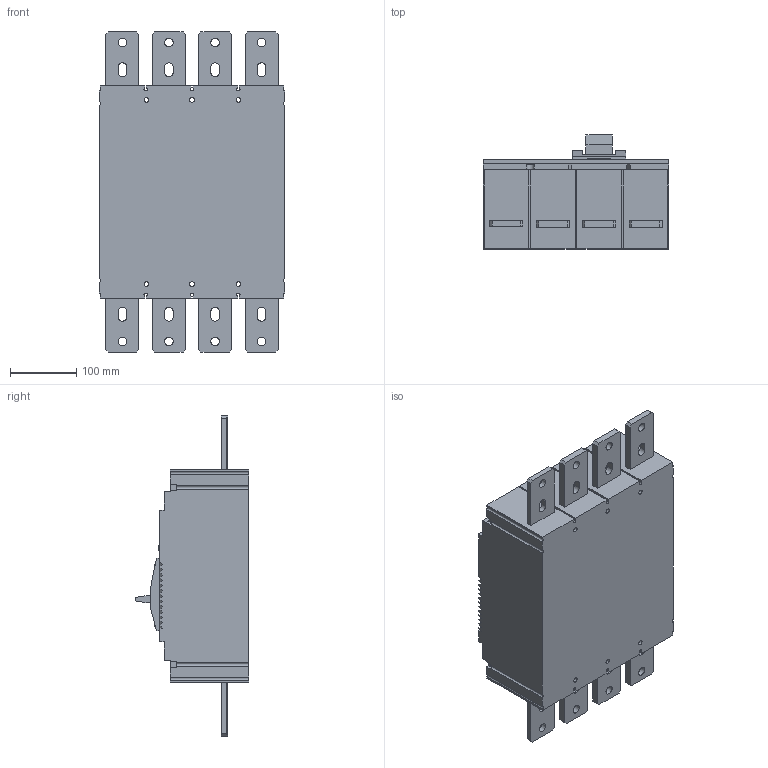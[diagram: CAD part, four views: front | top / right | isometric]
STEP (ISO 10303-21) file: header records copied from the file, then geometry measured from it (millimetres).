
FILE_DESCRIPTION(/* description */ ('','CAx-IF Rec.Pracs.---Representation and Presentation of Product Manufacturing Information (PMI)---3.8---2014-02-18'),/* implementation_level */ '2;1');
FILE_NAME(/* name */ 'E:\3D model\45-susol-mccb-800af-iec-4pl.stp',/* time_stamp */ '2017-11-09T14:53:54+03:00',/* author */ ('dobrin'),/* organization */ (''),/* preprocessor_version */ 'ST-DEVELOPER v16.13',/* originating_system */ 'Autodesk Inventor 2018',/* authorisation */ '');
FILE_SCHEMA (('AP242_MANAGED_MODEL_BASED_3D_ENGINEERING_MIM_LF { 1 0 10303 442 1 1 4 }'));
Length unit declared in the file: metre
Products named in the file (1): 45-susol-mccb-800af-iec-4pl
Bounding box: 280 x 172 x 483 mm (x, y, z)
Volume: 11921208.1 mm3; surface area: 472169.8 mm2
Topology: 1 solids, 1 shells, 880 faces, 2332 edges, 1527 vertices
Faces by surface type: plane 724, cylinder 111, torus 23, cone 10, sphere 8, bspline 4
Full cylindrical faces by diameter (mm): 3 x3, 7 x8, 8 x6, 13 x8, 22 x8, 26 x8
Entity records: 27305 total; most frequent: CARTESIAN_POINT 5248, ORIENTED_EDGE 4544, DIRECTION 4337, EDGE_CURVE 2272, LINE 1975, VECTOR 1975, VERTEX_POINT 1524, AXIS2_PLACEMENT_3D 1185
